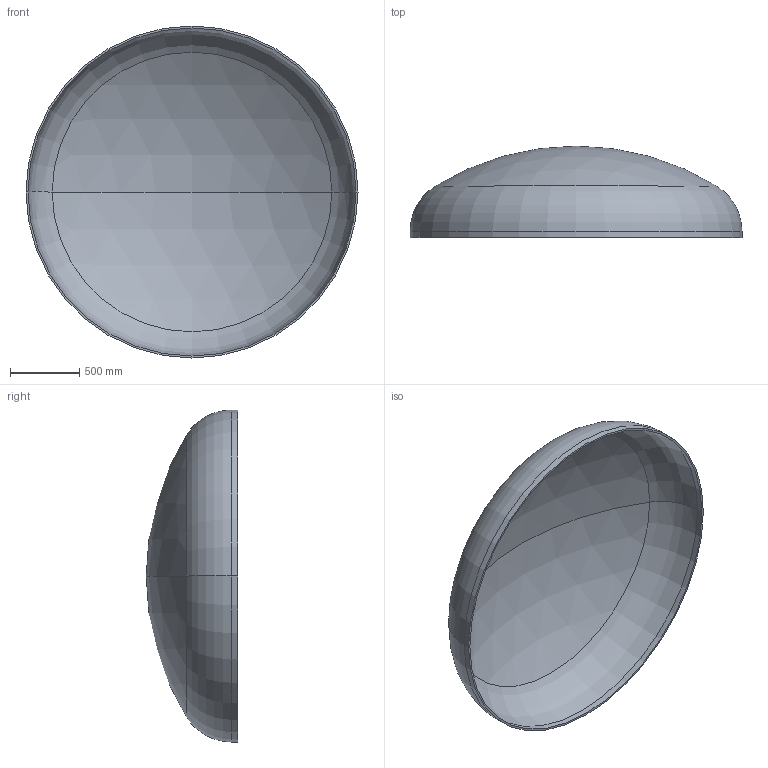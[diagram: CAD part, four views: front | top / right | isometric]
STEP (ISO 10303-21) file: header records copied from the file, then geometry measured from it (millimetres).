
FILE_DESCRIPTION (( 'STEP AP203' ), '1' );
FILE_NAME ('DIN 28013 Korbbogenform_-_Boden DIN 28013 - 2400 x 45 - I - s=14.step', '2016-07-01T15:06:23', ( '' ), ( '' ), 'SwSTEP 2.0', 'SolidWorks 2013', '' );
FILE_SCHEMA (( 'CONFIG_CONTROL_DESIGN' ));
Length unit declared in the file: millimetre
Products named in the file (1): DIN 28013 Korbbogenform_-_Boden DIN 28013 - 2400 x 45 - I - s=14
Bounding box: 2400 x 661.18 x 2400 mm (x, y, z)
Volume: 91786371.6 mm3; surface area: 13217686 mm2
Topology: 1 solids, 1 shells, 13 faces, 24 edges, 14 vertices
Faces by surface type: torus 4, cylinder 4, sphere 4, plane 1
Entity records: 407 total; most frequent: DIRECTION 72, CARTESIAN_POINT 52, ORIENTED_EDGE 48, AXIS2_PLACEMENT_3D 34, EDGE_CURVE 24, CIRCLE 20, VERTEX_POINT 14, EDGE_LOOP 14
